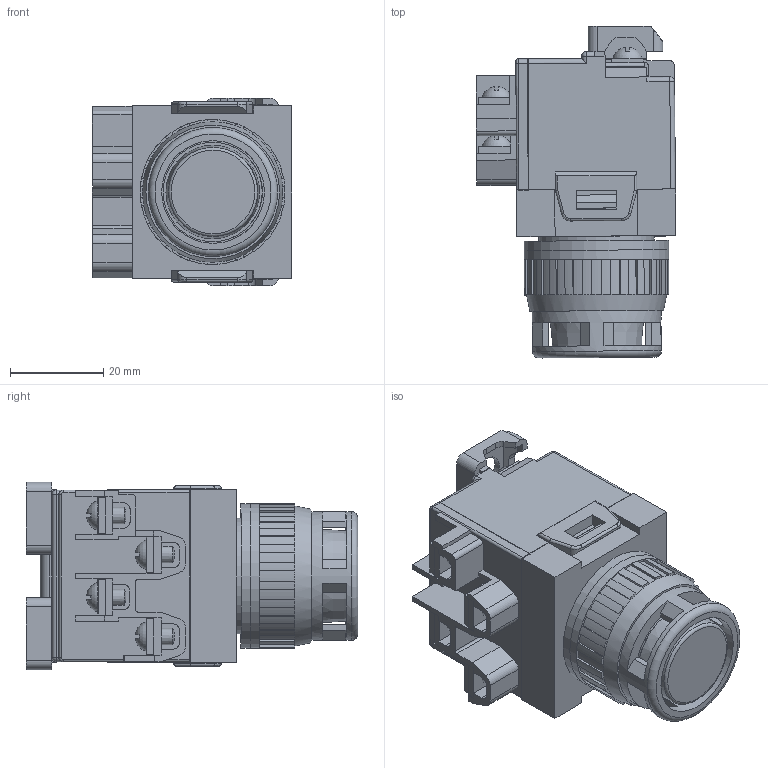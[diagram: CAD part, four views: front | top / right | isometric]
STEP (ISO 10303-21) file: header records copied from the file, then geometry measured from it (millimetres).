
FILE_DESCRIPTION(/* description */ (''),/* implementation_level */ '2;1');
FILE_NAME(/* name */ 'E:\Inventor 2016\제품 외형도\제어용 스위치\조광형 누름 버튼 스위치 (NPBL)\NPBL 25 (LED TYPE).stp',/* time_stamp */ '2019-04-09T10:11:44+09:00',/* author */ ('Kim'),/* organization */ (''),/* preprocessor_version */ 'ST-DEVELOPER v16.1',/* originating_system */ 'Autodesk Inventor 2016',/* authorisation */ '');
FILE_SCHEMA (('AUTOMOTIVE_DESIGN { 1 0 10303 214 3 1 1 }'));
Length unit declared in the file: millimetre
Products named in the file (18): 상부 (25파이); 1; 3; 4; 9; 10; 11; 12; 13; 14; 15; 16; 17; 하부; 보호커버; NPBL RING 25  (G60D036); NPBL 25(CAP); NPBL 25 (LED TYPE)
Assembly tree (17 placements, depth 3):
  NPBL 25 (LED TYPE)
    상부 (25파이)
    하부
      1
      3
      4
      9
      10
      11
      12
      13
      14
      15
      16
      17
    보호커버
    NPBL RING 25  (G60D036)
    NPBL 25(CAP)
Bounding box: 42.73 x 71.03 x 40.1 mm (x, y, z)
Volume: 60570.8 mm3; surface area: 30422.3 mm2
Topology: 18 solids, 20 shells, 750 faces, 1957 edges, 1261 vertices
Faces by surface type: plane 567, cylinder 147, bspline 12, cone 11, sphere 10, torus 3
Full cylindrical faces by diameter (mm): 0.1 x1, 8 x2, 18.3 x1, 20 x1, 21.3 x1, 22 x1, 23.3 x3, 24.7 x1, 27.6 x1, 31 x2
Entity records: 23319 total; most frequent: CARTESIAN_POINT 4347, DIRECTION 3890, ORIENTED_EDGE 3816, EDGE_CURVE 1906, LINE 1464, VECTOR 1464, VERTEX_POINT 1254, AXIS2_PLACEMENT_3D 1213
